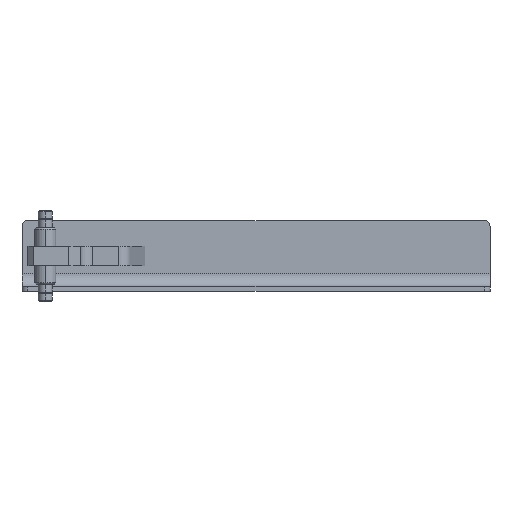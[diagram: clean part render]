
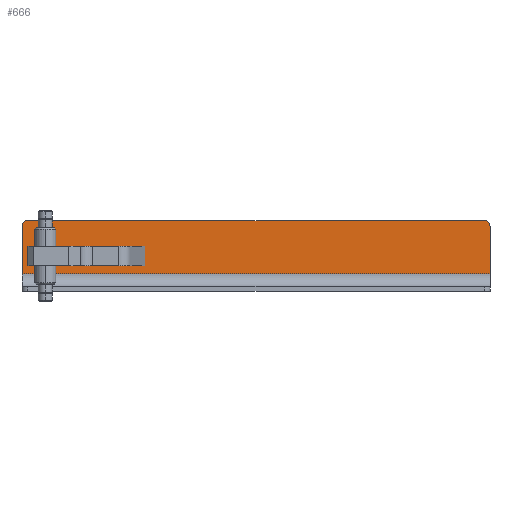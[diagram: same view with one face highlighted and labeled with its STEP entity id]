
A CAD part, left-side view. The second image highlights one B-rep face of the part: STEP entity #666.
In plain terms, the highlighted planar face has unit normal (-1, 0, 0).
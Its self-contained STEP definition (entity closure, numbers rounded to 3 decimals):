
#24 = EDGE_LOOP ( 'NONE', ( #1821, #756, #155, #1270, #1234, #1805 ) ) ;
#27 = CARTESIAN_POINT ( 'NONE',  ( 50., -50., 0. ) ) ;
#94 = VERTEX_POINT ( 'NONE', #1002 ) ;
#95 = DIRECTION ( 'NONE',  ( 0., 0., 1. ) ) ;
#147 = VERTEX_POINT ( 'NONE', #27 ) ;
#155 = ORIENTED_EDGE ( 'NONE', *, *, #602, .F. ) ;
#164 = EDGE_CURVE ( 'NONE', #147, #1357, #293, .T. ) ;
#182 = LINE ( 'NONE', #466, #1316 ) ;
#205 = EDGE_LOOP ( 'NONE', ( #682, #1611, #1601, #317 ) ) ;
#206 = FACE_OUTER_BOUND ( 'NONE', #24, .T. ) ;
#245 = EDGE_CURVE ( 'NONE', #462, #147, #1358, .T. ) ;
#290 = EDGE_CURVE ( 'NONE', #645, #94, #1336, .T. ) ;
#293 = LINE ( 'NONE', #860, #1501 ) ;
#312 = DIRECTION ( 'NONE',  ( 0., 1., 0. ) ) ;
#317 = ORIENTED_EDGE ( 'NONE', *, *, #164, .F. ) ;
#338 = AXIS2_PLACEMENT_3D ( 'NONE', #499, #1069, #1199 ) ;
#435 = CARTESIAN_POINT ( 'NONE',  ( 50., 50., 0. ) ) ;
#462 = VERTEX_POINT ( 'NONE', #1096 ) ;
#466 = CARTESIAN_POINT ( 'NONE',  ( 50., -345., 22. ) ) ;
#472 = VERTEX_POINT ( 'NONE', #1000 ) ;
#480 = CARTESIAN_POINT ( 'NONE',  ( 50., -345., 22. ) ) ;
#499 = CARTESIAN_POINT ( 'NONE',  ( 50., -345., 22. ) ) ;
#515 = EDGE_CURVE ( 'NONE', #1620, #1275, #182, .T. ) ;
#583 = DIRECTION ( 'NONE',  ( -1., 0., 0. ) ) ;
#588 = CARTESIAN_POINT ( 'NONE',  ( 50., -340., 17. ) ) ;
#591 = DIRECTION ( 'NONE',  ( 0., 0., 1. ) ) ;
#602 = EDGE_CURVE ( 'NONE', #94, #864, #1740, .T. ) ;
#604 = EDGE_CURVE ( 'NONE', #645, #823, #733, .T. ) ;
#612 = EDGE_CURVE ( 'NONE', #1275, #864, #1051, .T. ) ;
#645 = VERTEX_POINT ( 'NONE', #1101 ) ;
#658 = FACE_BOUND ( 'NONE', #205, .T. ) ;
#666 = ADVANCED_FACE ( 'NONE', ( #658, #206 ), #952, .T. ) ;
#682 = ORIENTED_EDGE ( 'NONE', *, *, #245, .F. ) ;
#725 = CARTESIAN_POINT ( 'NONE',  ( 50., 55., 22. ) ) ;
#733 = LINE ( 'NONE', #480, #1605 ) ;
#751 = AXIS2_PLACEMENT_3D ( 'NONE', #588, #1584, #1294 ) ;
#756 = ORIENTED_EDGE ( 'NONE', *, *, #612, .T. ) ;
#823 = VERTEX_POINT ( 'NONE', #1820 ) ;
#860 = CARTESIAN_POINT ( 'NONE',  ( 50., -50., 0. ) ) ;
#864 = VERTEX_POINT ( 'NONE', #1526 ) ;
#870 = VECTOR ( 'NONE', #1472, 1000. ) ;
#923 = EDGE_CURVE ( 'NONE', #823, #1620, #1631, .T. ) ;
#952 = PLANE ( 'NONE',  #338 ) ;
#1000 = CARTESIAN_POINT ( 'NONE',  ( 50., 50., -16.5 ) ) ;
#1002 = CARTESIAN_POINT ( 'NONE',  ( 50., 55., -23.5 ) ) ;
#1048 = DIRECTION ( 'NONE',  ( 0., 0., 1. ) ) ;
#1051 = CIRCLE ( 'NONE', #1815, 5. ) ;
#1069 = DIRECTION ( 'NONE',  ( -1., 0., 0. ) ) ;
#1096 = CARTESIAN_POINT ( 'NONE',  ( 50., -50., -16.5 ) ) ;
#1101 = CARTESIAN_POINT ( 'NONE',  ( 50., -345., -23.5 ) ) ;
#1104 = CARTESIAN_POINT ( 'NONE',  ( 50., -340., 22. ) ) ;
#1131 = EDGE_CURVE ( 'NONE', #462, #472, #1206, .T. ) ;
#1157 = EDGE_CURVE ( 'NONE', #472, #1357, #1371, .T. ) ;
#1199 = DIRECTION ( 'NONE',  ( 0., 0., 1. ) ) ;
#1206 = LINE ( 'NONE', #1602, #1280 ) ;
#1211 = CARTESIAN_POINT ( 'NONE',  ( 50., -50., -16.5 ) ) ;
#1223 = VECTOR ( 'NONE', #95, 1000. ) ;
#1232 = VECTOR ( 'NONE', #1438, 1000. ) ;
#1234 = ORIENTED_EDGE ( 'NONE', *, *, #604, .T. ) ;
#1270 = ORIENTED_EDGE ( 'NONE', *, *, #290, .F. ) ;
#1275 = VERTEX_POINT ( 'NONE', #1531 ) ;
#1280 = VECTOR ( 'NONE', #1353, 1000. ) ;
#1289 = CARTESIAN_POINT ( 'NONE',  ( 50., 50., 17. ) ) ;
#1294 = DIRECTION ( 'NONE',  ( 0., 0., 1. ) ) ;
#1316 = VECTOR ( 'NONE', #1604, 1000. ) ;
#1319 = CARTESIAN_POINT ( 'NONE',  ( 50., -345., -23.5 ) ) ;
#1327 = DIRECTION ( 'NONE',  ( 0., 0., 1. ) ) ;
#1336 = LINE ( 'NONE', #1319, #870 ) ;
#1353 = DIRECTION ( 'NONE',  ( 0., 1., 0. ) ) ;
#1357 = VERTEX_POINT ( 'NONE', #435 ) ;
#1358 = LINE ( 'NONE', #1211, #1596 ) ;
#1362 = CARTESIAN_POINT ( 'NONE',  ( 50., 50., -16.5 ) ) ;
#1371 = LINE ( 'NONE', #1362, #1223 ) ;
#1438 = DIRECTION ( 'NONE',  ( 0., 0., 1. ) ) ;
#1472 = DIRECTION ( 'NONE',  ( 0., 1., 0. ) ) ;
#1501 = VECTOR ( 'NONE', #312, 1000. ) ;
#1526 = CARTESIAN_POINT ( 'NONE',  ( 50., 55., 17. ) ) ;
#1531 = CARTESIAN_POINT ( 'NONE',  ( 50., 50., 22. ) ) ;
#1584 = DIRECTION ( 'NONE',  ( -1., 0., 0. ) ) ;
#1596 = VECTOR ( 'NONE', #1327, 1000. ) ;
#1601 = ORIENTED_EDGE ( 'NONE', *, *, #1157, .T. ) ;
#1602 = CARTESIAN_POINT ( 'NONE',  ( 50., -50., -16.5 ) ) ;
#1604 = DIRECTION ( 'NONE',  ( 0., 1., 0. ) ) ;
#1605 = VECTOR ( 'NONE', #1048, 1000. ) ;
#1611 = ORIENTED_EDGE ( 'NONE', *, *, #1131, .T. ) ;
#1620 = VERTEX_POINT ( 'NONE', #1104 ) ;
#1631 = CIRCLE ( 'NONE', #751, 5. ) ;
#1740 = LINE ( 'NONE', #725, #1232 ) ;
#1805 = ORIENTED_EDGE ( 'NONE', *, *, #923, .T. ) ;
#1815 = AXIS2_PLACEMENT_3D ( 'NONE', #1289, #583, #591 ) ;
#1820 = CARTESIAN_POINT ( 'NONE',  ( 50., -345., 17. ) ) ;
#1821 = ORIENTED_EDGE ( 'NONE', *, *, #515, .T. ) ;
